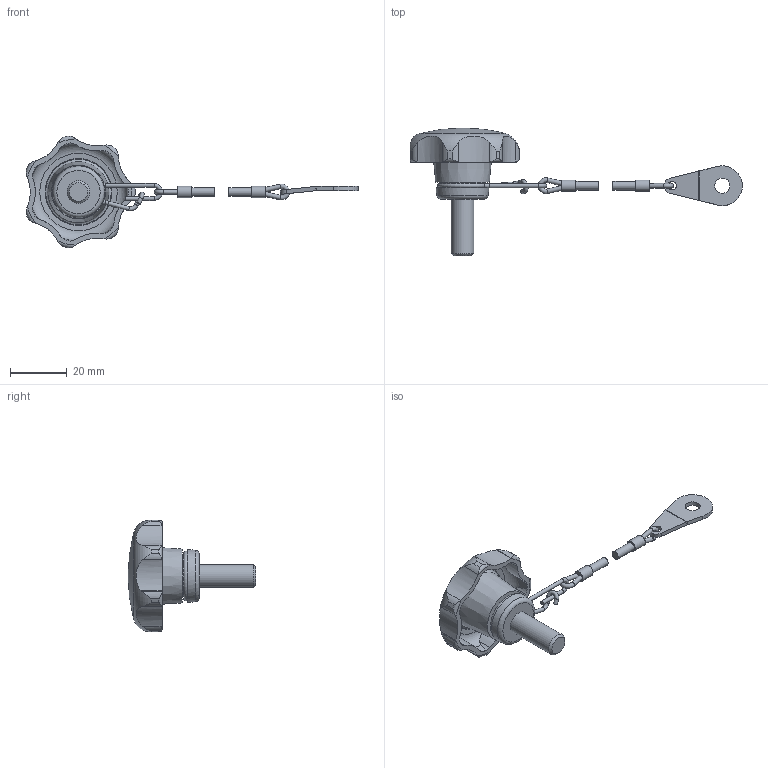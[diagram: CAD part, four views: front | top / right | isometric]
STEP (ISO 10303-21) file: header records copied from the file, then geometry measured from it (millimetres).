
FILE_DESCRIPTION( ( 'STEP AP203' ), '1' );
FILE_NAME( 'C:/Temp/Ganter_Step_05_03_2020/data/2_2/gn_6336_13/gn_6336_13_2/Star knob GN 6336.13-40-M8-20-H.stp', '2020-03-05T12:11:38', ( 'License CC BY-ND 4.0' ), ( 'CADENAS' ), ' ', 'PARTsolutions', ' ' );
FILE_SCHEMA( ( 'CONFIG_CONTROL_DESIGN' ) );
Length unit declared in the file: millimetre
Products named in the file (3): Star knob GN 6336.13-40-M8-20-H; _Star knob GN 6336.13-40-M8-20-H 6; _Star knob GN 111.2-200-14 h2
Assembly tree (2 placements, depth 2):
  Star knob GN 6336.13-40-M8-20-H
    _Star knob GN 6336.13-40-M8-20-H 6
    _Star knob GN 111.2-200-14 h2
Bounding box: 116.85 x 45 x 39.31 mm (x, y, z)
Volume: 12904.3 mm3; surface area: 7170.7 mm2
Topology: 2 solids, 2 shells, 154 faces, 422 edges, 274 vertices
Faces by surface type: cylinder 87, plane 35, torus 20, cone 11, sphere 1
Full cylindrical faces by diameter (mm): 1.4 x5, 1.6 x4, 3 x3, 4 x2, 5.3 x1, 8 x1, 14.7 x1
Entity records: 5502 total; most frequent: CARTESIAN_POINT 1785, ORIENTED_EDGE 738, DIRECTION 722, EDGE_CURVE 369, AXIS2_PLACEMENT_3D 302, VERTEX_POINT 263, EDGE_LOOP 205, FACE_OUTER_BOUND 183
